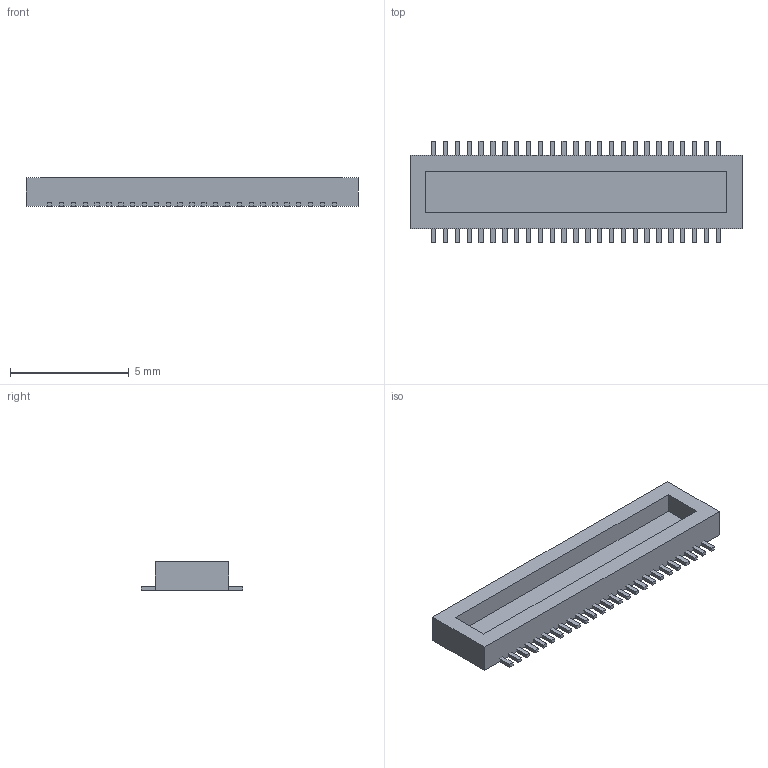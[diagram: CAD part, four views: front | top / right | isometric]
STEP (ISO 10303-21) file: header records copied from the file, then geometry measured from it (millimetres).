
FILE_DESCRIPTION(('FreeCAD Model'),'2;1');
FILE_NAME('Open CASCADE Shape Model','2026-10-14T23:10:09',('FreeCAD'),( 'FreeCAD'),'Open CASCADE STEP processor 7.9','FreeCAD','Unknown');
FILE_SCHEMA(('AUTOMOTIVE_DESIGN { 1 0 10303 214 1 1 1 1 }'));
Length unit declared in the file: millimetre
Products named in the file (1): Open CASCADE STEP translator 7.9 2
Bounding box: 14 x 4.3 x 1.2 mm (x, y, z)
Volume: 35 mm3; surface area: 185.8 mm2
Topology: 51 solids, 51 shells, 311 faces, 624 edges, 416 vertices
Faces by surface type: plane 311
Entity records: 7808 total; most frequent: CARTESIAN_POINT 1352, DIRECTION 1248, ORIENTED_EDGE 1248, EDGE_CURVE 624, LINE 624, VECTOR 624, VERTEX_POINT 416, AXIS2_PLACEMENT_3D 312
